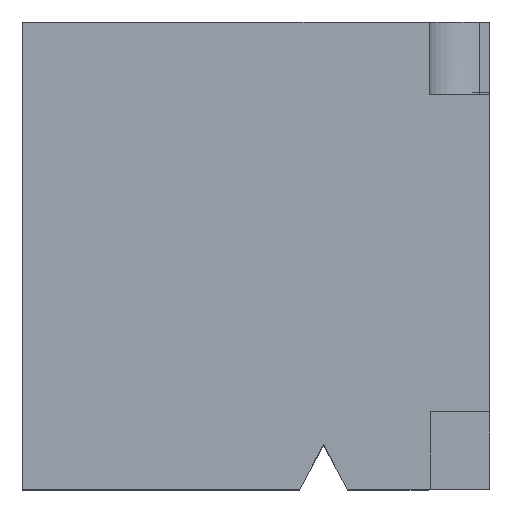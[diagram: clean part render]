
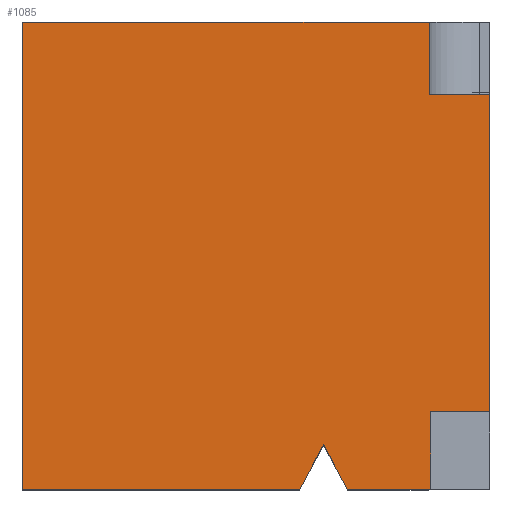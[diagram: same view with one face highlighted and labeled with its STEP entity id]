
A CAD part, top view. The second image highlights one B-rep face of the part: STEP entity #1085.
In plain terms, the highlighted planar face has unit normal (0, 0, 1).
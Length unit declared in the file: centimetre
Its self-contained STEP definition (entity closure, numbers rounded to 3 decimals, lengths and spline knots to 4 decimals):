
#1 = CARTESIAN_POINT ( 'NONE',  ( 0., 0., 1000. ) ) ;
#2 = DIRECTION ( 'NONE',  ( 1., 0., 0. ) ) ;
#13 = FACE_OUTER_BOUND ( 'NONE', #195, .T. ) ;
#25 = CARTESIAN_POINT ( 'NONE',  ( 1000., 1000., 1000. ) ) ;
#51 = EDGE_CURVE ( 'NONE', #1116, #405, #1369, .T. ) ;
#64 = VERTEX_POINT ( 'NONE', #168 ) ;
#71 = CARTESIAN_POINT ( 'NONE',  ( 0., 0., 1000. ) ) ;
#79 = DIRECTION ( 'NONE',  ( -1., 0., 0. ) ) ;
#88 = VECTOR ( 'NONE', #169, 100. ) ;
#99 = VECTOR ( 'NONE', #426, 100. ) ;
#118 = DIRECTION ( 'NONE',  ( 0., -1., 0. ) ) ;
#139 = EDGE_CURVE ( 'NONE', #317, #899, #509, .T. ) ;
#141 = ORIENTED_EDGE ( 'NONE', *, *, #1335, .T. ) ;
#142 = VECTOR ( 'NONE', #1282, 100. ) ;
#168 = CARTESIAN_POINT ( 'NONE',  ( 870.8732, 845.8825, 1000. ) ) ;
#169 = DIRECTION ( 'NONE',  ( 0.472, -0.881, 0. ) ) ;
#176 = CARTESIAN_POINT ( 'NONE',  ( 873.6796, 165.671, 1000. ) ) ;
#183 = VECTOR ( 'NONE', #1169, 100. ) ;
#185 = EDGE_CURVE ( 'NONE', #606, #1116, #854, .T. ) ;
#195 = EDGE_LOOP ( 'NONE', ( #1370, #534, #445, #958, #831, #782, #479, #503, #141, #452, #703 ) ) ;
#232 = CARTESIAN_POINT ( 'NONE',  ( 0., 0., 1000. ) ) ;
#268 = VECTOR ( 'NONE', #118, 100. ) ;
#288 = VECTOR ( 'NONE', #1255, 100. ) ;
#317 = VERTEX_POINT ( 'NONE', #905 ) ;
#332 = DIRECTION ( 'NONE',  ( 0., 0., 1. ) ) ;
#343 = EDGE_CURVE ( 'NONE', #903, #606, #1326, .T. ) ;
#363 = EDGE_CURVE ( 'NONE', #1247, #64, #1030, .T. ) ;
#397 = LINE ( 'NONE', #843, #183 ) ;
#405 = VERTEX_POINT ( 'NONE', #697 ) ;
#426 = DIRECTION ( 'NONE',  ( 1., 0., 0. ) ) ;
#445 = ORIENTED_EDGE ( 'NONE', *, *, #716, .T. ) ;
#452 = ORIENTED_EDGE ( 'NONE', *, *, #778, .T. ) ;
#454 = CARTESIAN_POINT ( 'NONE',  ( 0., 0., 1000. ) ) ;
#474 = DIRECTION ( 'NONE',  ( -1., 0., 0. ) ) ;
#479 = ORIENTED_EDGE ( 'NONE', *, *, #185, .T. ) ;
#494 = LINE ( 'NONE', #923, #797 ) ;
#503 = ORIENTED_EDGE ( 'NONE', *, *, #51, .T. ) ;
#504 = VECTOR ( 'NONE', #867, 100. ) ;
#509 = LINE ( 'NONE', #71, #1338 ) ;
#515 = VERTEX_POINT ( 'NONE', #839 ) ;
#534 = ORIENTED_EDGE ( 'NONE', *, *, #859, .F. ) ;
#606 = VERTEX_POINT ( 'NONE', #1261 ) ;
#624 = CARTESIAN_POINT ( 'NONE',  ( 873.6796, 165.671, 1000. ) ) ;
#636 = CARTESIAN_POINT ( 'NONE',  ( 873.6796, 0., 1000. ) ) ;
#697 = CARTESIAN_POINT ( 'NONE',  ( 593.7239, 0., 1000. ) ) ;
#703 = ORIENTED_EDGE ( 'NONE', *, *, #139, .T. ) ;
#715 = LINE ( 'NONE', #176, #1351 ) ;
#716 = EDGE_CURVE ( 'NONE', #921, #1247, #988, .T. ) ;
#778 = EDGE_CURVE ( 'NONE', #515, #317, #1042, .T. ) ;
#782 = ORIENTED_EDGE ( 'NONE', *, *, #343, .T. ) ;
#797 = VECTOR ( 'NONE', #1331, 100. ) ;
#816 = AXIS2_PLACEMENT_3D ( 'NONE', #232, #332, #1195 ) ;
#831 = ORIENTED_EDGE ( 'NONE', *, *, #1010, .F. ) ;
#839 = CARTESIAN_POINT ( 'NONE',  ( 644.6224, 94.9568, 1000. ) ) ;
#843 = CARTESIAN_POINT ( 'NONE',  ( 593.7239, 0., 1000. ) ) ;
#854 = LINE ( 'NONE', #861, #142 ) ;
#859 = EDGE_CURVE ( 'NONE', #921, #1314, #715, .T. ) ;
#861 = CARTESIAN_POINT ( 'NONE',  ( 0., 1000., 1000. ) ) ;
#867 = DIRECTION ( 'NONE',  ( 0., 1., 0. ) ) ;
#882 = VECTOR ( 'NONE', #79, 100. ) ;
#894 = CARTESIAN_POINT ( 'NONE',  ( 1000., 845.8825, 1000. ) ) ;
#899 = VERTEX_POINT ( 'NONE', #636 ) ;
#903 = VERTEX_POINT ( 'NONE', #960 ) ;
#905 = CARTESIAN_POINT ( 'NONE',  ( 695.521, 0., 1000. ) ) ;
#913 = CARTESIAN_POINT ( 'NONE',  ( 0., 845.8825, 1000. ) ) ;
#921 = VERTEX_POINT ( 'NONE', #1157 ) ;
#923 = CARTESIAN_POINT ( 'NONE',  ( 873.6796, 165.671, 1000. ) ) ;
#943 = CARTESIAN_POINT ( 'NONE',  ( 870.8732, 845.8825, 1000. ) ) ;
#958 = ORIENTED_EDGE ( 'NONE', *, *, #363, .T. ) ;
#960 = CARTESIAN_POINT ( 'NONE',  ( 870.8732, 1000., 1000. ) ) ;
#988 = LINE ( 'NONE', #25, #504 ) ;
#1010 = EDGE_CURVE ( 'NONE', #903, #64, #1264, .T. ) ;
#1030 = LINE ( 'NONE', #913, #288 ) ;
#1042 = LINE ( 'NONE', #1345, #88 ) ;
#1085 = ADVANCED_FACE ( 'NONE', ( #13 ), #1302, .T. ) ;
#1116 = VERTEX_POINT ( 'NONE', #454 ) ;
#1157 = CARTESIAN_POINT ( 'NONE',  ( 1000., 165.671, 1000. ) ) ;
#1169 = DIRECTION ( 'NONE',  ( 0.472, 0.881, 0. ) ) ;
#1195 = DIRECTION ( 'NONE',  ( 1., 0., 0. ) ) ;
#1240 = EDGE_CURVE ( 'NONE', #1314, #899, #494, .T. ) ;
#1247 = VERTEX_POINT ( 'NONE', #894 ) ;
#1255 = DIRECTION ( 'NONE',  ( -1., 0., 0. ) ) ;
#1261 = CARTESIAN_POINT ( 'NONE',  ( 0., 1000., 1000. ) ) ;
#1264 = LINE ( 'NONE', #943, #268 ) ;
#1282 = DIRECTION ( 'NONE',  ( 0., -1., 0. ) ) ;
#1302 = PLANE ( 'NONE',  #816 ) ;
#1314 = VERTEX_POINT ( 'NONE', #624 ) ;
#1326 = LINE ( 'NONE', #1334, #882 ) ;
#1331 = DIRECTION ( 'NONE',  ( 0., -1., 0. ) ) ;
#1334 = CARTESIAN_POINT ( 'NONE',  ( 0., 1000., 1000. ) ) ;
#1335 = EDGE_CURVE ( 'NONE', #405, #515, #397, .T. ) ;
#1338 = VECTOR ( 'NONE', #2, 100. ) ;
#1345 = CARTESIAN_POINT ( 'NONE',  ( 644.6224, 94.9568, 1000. ) ) ;
#1351 = VECTOR ( 'NONE', #474, 100. ) ;
#1369 = LINE ( 'NONE', #1, #99 ) ;
#1370 = ORIENTED_EDGE ( 'NONE', *, *, #1240, .F. ) ;
